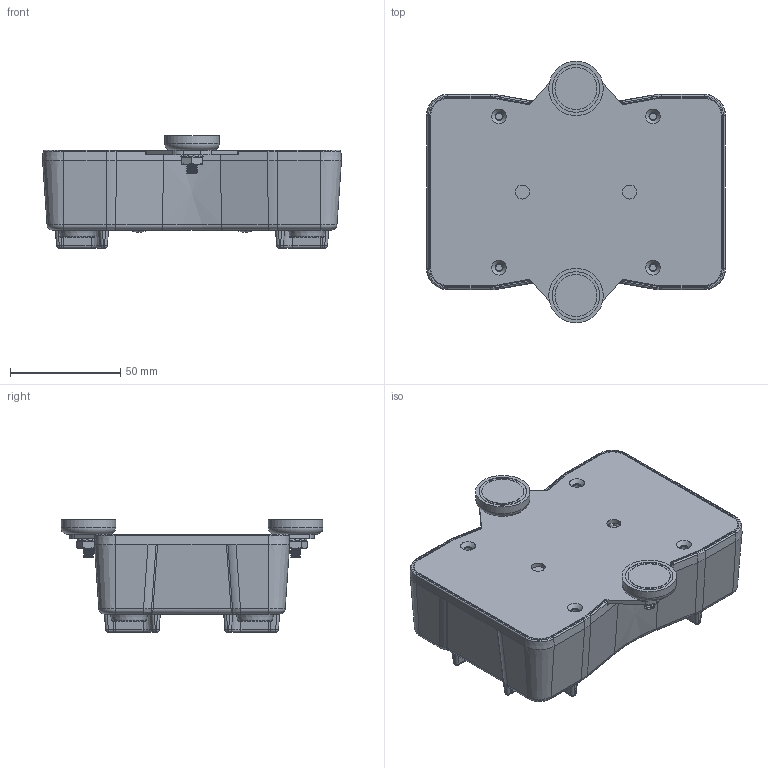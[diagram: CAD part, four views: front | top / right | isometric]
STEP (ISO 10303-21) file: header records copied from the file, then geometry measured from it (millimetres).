
FILE_DESCRIPTION(/* description */ (''),/* implementation_level */ '2;1');
FILE_NAME(/* name */ 'LXR_Customer_Model.step',/* time_stamp */ '2026-05-29T11:15:56-04:00',/* author */ (''),/* organization */ (''),/* preprocessor_version */ 'ST-DEVELOPER v20.1',/* originating_system */ 'Autodesk Translation Framework v15.8.0.0',/* authorisation */ '');
FILE_SCHEMA (('AUTOMOTIVE_DESIGN { 1 0 10303 214 3 1 1 }'));
Length unit declared in the file: inch
Products named in the file (14): LXR_Customer_Model; Lens; GENERIC LXR(R1)_ASM v1; Enclosure; DS_Plate(R1); Collar; Collar_Screw; Lens_1; Lens_2; Lens_3; CLB 300 CTP; Lens_Holder; Cup_Magnet; Ext_Tooth_Lock_Nut
Assembly tree (27 placements, depth 3):
  LXR_Customer_Model
    Lens
      CLB 300 CTP
    GENERIC LXR(R1)_ASM v1
      Enclosure
      DS_Plate(R1)
      Collar  x4
      Collar_Screw  x4
    Lens_1
      CLB 300 CTP
    Lens_2
      CLB 300 CTP
    Lens_3
      CLB 300 CTP
    Lens_Holder  x4
    Cup_Magnet  x2
    Ext_Tooth_Lock_Nut  x2
Bounding box: 135.6 x 118.75 x 51.03 mm (x, y, z)
Volume: 109689.1 mm3; surface area: 98465.7 mm2
Topology: 22 solids, 330 shells, 1391 faces, 4346 edges, 3331 vertices
Faces by surface type: cylinder 432, plane 414, cone 360, bspline 105, torus 52, sphere 28
Full cylindrical faces by diameter (mm): 3.099 x4, 3.541 x6, 3.68 x4, 3.734 x4, 4.343 x4, 4.632 x32, 4.709 x12, 4.826 x8, 6.35 x44, 6.604 x4, 7.112 x8, 7.207 x2, 8.382 x4, 15.938 x4, 17.526 x4, 19.05 x2, 21.59 x2, 24.765 x2
Entity records: 35151 total; most frequent: CARTESIAN_POINT 14217, DIRECTION 4216, ORIENTED_EDGE 4070, EDGE_CURVE 2231, AXIS2_PLACEMENT_3D 1579, VERTEX_POINT 1550, LINE 1058, VECTOR 1058
